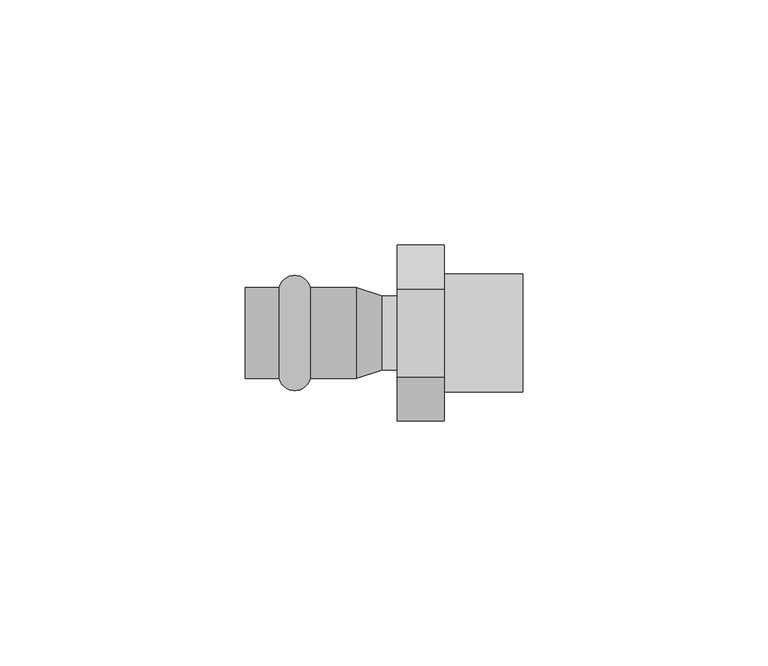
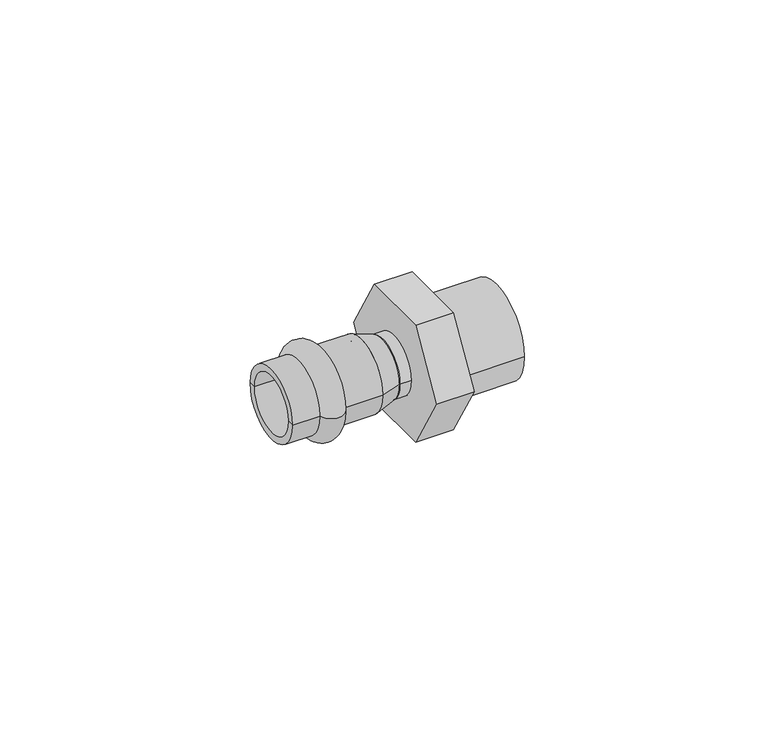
"""IFC4 building model written with IfcOpenShell, lengths in millimetres: pipe fitting geometry, VALTEC_VTi.901.I_Соединитель прямой с переходом на наружную резьбу_Нержавеющая сталь : VTi.901.I."""

from ifc_helpers import new_model, si_unit, point, frame, origin, origin_2d, place, context, project, spatial, polyline, circle_curve, ellipse_curve, trimmed, segment, composite_curve, outline, extrude, source, transform, mapped, element, save
from ifc_brep_helpers import plane_surface, cylinder_surface, revolved_surface, advanced_brep


def pipe_fitting_7e90666c(model_context):
    return source(origin(), model_context, "Body", "SolidModel", [
        advanced_brep(
        [(-28.8622777, -9.25, 0.0), (-28.8622777, 9.25, 0.0), (-22.5377223, 9.25, 0.0), (-22.5377223, -9.25, 0.0), (-35.75, -9.25, 0.0), (-35.75, 9.25, 0.0), (-35.75, -7.5, 0.0), (-35.75, 7.5, 0.0), (-13.15, -7.5, 0.0), (-13.15, 7.5, 0.0), (-13.15, -9.25, 0.0), (-13.15, 9.25, 0.0)],
        [
            (0, 1, circle_curve(frame((-28.8622777, 0.0, 0.0), z_axis=(1.0, 0.0, 0.0), x_axis=(0.0, 1.0, 0.0)), 9.25)),
            (1, 2, circle_curve(frame((-25.7, 8.5, 0.0), z_axis=(0.0, 0.0, -1.0), x_axis=(1.0, 0.0, 0.0)), 3.25)),
            (2, 3, circle_curve(frame((-22.5377223, 0.0, 0.0), z_axis=(-1.0, 0.0, 0.0), x_axis=(0.0, 1.0, 0.0)), 9.25)),
            (3, 0, circle_curve(frame((-25.7, -8.5, 0.0), z_axis=(0.0, 0.0, -1.0), x_axis=(1.0, 0.0, 0.0)), 3.25)),
            (1, 0, circle_curve(frame((-28.8622777, 0.0, 0.0), z_axis=(1.0, 0.0, 0.0), x_axis=(0.0, 1.0, 0.0)), 9.25)),
            (3, 2, circle_curve(frame((-22.5377223, 0.0, 0.0), z_axis=(-1.0, 0.0, 0.0), x_axis=(0.0, 1.0, 0.0)), 9.25)),
            (4, 5, circle_curve(frame((-35.75, 0.0, 0.0), z_axis=(1.0, 0.0, 0.0), x_axis=(0.0, 1.0, 0.0)), 9.25)),
            (5, 1),
            (0, 4),
            (5, 4, circle_curve(frame((-35.75, 0.0, 0.0), z_axis=(1.0, 0.0, 0.0), x_axis=(0.0, 1.0, 0.0)), 9.25)),
            (6, 7, circle_curve(frame((-35.75, 0.0, 0.0), z_axis=(1.0, 0.0, 0.0), x_axis=(0.0, 1.0, 0.0)), 7.5)),
            (7, 5),
            (4, 6),
            (7, 6, circle_curve(frame((-35.75, 0.0, 0.0), z_axis=(1.0, 0.0, 0.0), x_axis=(0.0, 1.0, 0.0)), 7.5)),
            (8, 9, circle_curve(frame((-13.15, 0.0, 0.0), z_axis=(1.0, 0.0, 0.0), x_axis=(0.0, 1.0, 0.0)), 7.5)),
            (9, 7),
            (6, 8),
            (9, 8, circle_curve(frame((-13.15, 0.0, 0.0), z_axis=(1.0, 0.0, 0.0), x_axis=(0.0, 1.0, 0.0)), 7.5)),
            (10, 11, circle_curve(frame((-13.15, 0.0, 0.0), z_axis=(1.0, 0.0, 0.0), x_axis=(0.0, 1.0, 0.0)), 9.25)),
            (11, 9),
            (8, 10),
            (11, 10, circle_curve(frame((-13.15, 0.0, 0.0), z_axis=(1.0, 0.0, 0.0), x_axis=(0.0, 1.0, 0.0)), 9.25)),
            (2, 11),
            (10, 3),
        ],
        [
            revolved_surface(trimmed(ellipse_curve(frame((-25.7, 8.5, 0.0), z_axis=(0.0, 0.0, 1.0), x_axis=(1.0, 0.0, 0.0)), 3.25, 3.25), [point((-22.5377223, 9.25, 0.0))], [point((-28.8622777, 9.25, 0.0))], True, "CARTESIAN"), (-39.2864426, 0.0, 0.0), (-1.0, 0.0, 0.0)),
            cylinder_surface(frame((-39.2864426, 0.0, 0.0), z_axis=(-1.0, 0.0, 0.0), x_axis=(0.0, 1.0, 0.0)), 9.25),
            plane_surface(frame((-35.75, 0.0, 0.0), z_axis=(-1.0, 0.0, 0.0), x_axis=(0.0, 1.0, 0.0))),
            revolved_surface(polyline([(-35.75, 7.5, 0.0), (-13.149999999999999, 7.5, 0.0)]), (-39.2864426, 0.0, 0.0), (-1.0, 0.0, 0.0)),
            plane_surface(frame((-13.15, 0.0, 0.0), z_axis=(1.0, 0.0, 0.0), x_axis=(0.0, 1.0, 0.0))),
        ],
        [
            (0, [[1, 2, 3, 4]]),
            (0, [[5, -4, 6, -2]]),
            (1, [[7, 8, -1, 9]]),
            (1, [[10, -9, -5, -8]]),
            (2, [[11, 12, -7, 13]]),
            (2, [[14, -13, -10, -12]]),
            (3, [[15, 16, -11, 17]]),
            (3, [[18, -17, -14, -16]]),
            (4, [[19, 20, -15, 21]]),
            (4, [[22, -21, -18, -20]]),
            (1, [[-3, 23, -19, 24]]),
            (1, [[-6, -24, -22, -23]]),
        ],
    ),
        extrude(outline(polyline([(-17.8978583, 0.0), (-8.9489292, 15.5), (8.9489292, 15.5), (17.8978583, 0.0), (8.9489292, -15.5), (-8.9489292, -15.5), (-17.8978583, 0.0)])), frame((-4.75, 0.0, 0.0), z_axis=(1.0, 0.0, 0.0), x_axis=(0.0, 1.0, 0.0)), (0.0, 0.0, 1.0), 9.5),
        extrude(outline(composite_curve([segment(trimmed(circle_curve(origin_2d(), 7.5), [point((-7.5, 0.0))], [point((7.5, 0.0))], False, "CARTESIAN"), True, "CONTINUOUS"), segment(trimmed(circle_curve(origin_2d(), 7.5), [point((7.5, 0.0))], [point((-7.5, 0.0))], False, "CARTESIAN"), True, "CONTINUOUS")], self_intersect=False)), frame((-7.8183127, 0.0, 0.0), z_axis=(1.0, 0.0, 0.0), x_axis=(0.0, 1.0, 0.0)), (0.0, 0.0, 1.0), 3.0683127),
        advanced_brep(
        [(-13.15, -9.25, 0.0), (-13.15, 9.25, 0.0), (-7.8183127, -7.5, 0.0), (-7.8183127, 7.5, 0.0)],
        [
            (0, 1, circle_curve(frame((-13.15, 0.0, 0.0), z_axis=(-1.0, 0.0, 0.0), x_axis=(0.0, -1.0, 0.0)), 9.25)),
            (1, 0, circle_curve(frame((-13.15, 0.0, 0.0), z_axis=(-1.0, 0.0, 0.0), x_axis=(0.0, 1.0, 0.0)), 9.25)),
            (2, 3, circle_curve(frame((-7.8183127, 0.0, 0.0), z_axis=(1.0, 0.0, 0.0), x_axis=(0.0, 1.0, 0.0)), 7.5)),
            (3, 2, circle_curve(frame((-7.8183127, 0.0, 0.0), z_axis=(1.0, 0.0, 0.0), x_axis=(0.0, -1.0, 0.0)), 7.5)),
            (2, 0),
            (1, 3),
        ],
        [
            plane_surface(frame((-13.15, 0.0, 0.0), z_axis=(-1.0, 0.0, 0.0), x_axis=(0.0, 0.0, -1.0))),
            plane_surface(frame((-7.8183127, 0.0, 0.0), z_axis=(1.0, 0.0, 0.0), x_axis=(0.0, 0.0, -1.0))),
            revolved_surface(polyline([(-7.818312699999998, -7.500000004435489, 0.0), (-13.15, -9.25, 0.0)]), (15.0317758, 0.0, 0.0), (-1.0, 0.0, 0.0)),
            revolved_surface(polyline([(-7.818312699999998, 7.500000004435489, 0.0), (-13.15, 9.25, 0.0)]), (15.0317758, 0.0, 0.0), (-1.0, 0.0, 0.0)),
        ],
        [
            (0, [[1, 2]]),
            (1, [[3, 4]]),
            (2, [[-3, 5, -2, 6]]),
            (3, [[-4, -6, -1, -5]]),
        ],
    ),
        extrude(outline(composite_curve([segment(trimmed(circle_curve(origin_2d(), 12.0), [point((-12.0, 0.0))], [point((12.0, 0.0))], False, "CARTESIAN"), True, "CONTINUOUS"), segment(trimmed(circle_curve(origin_2d(), 12.0), [point((12.0, 0.0))], [point((-12.0, 0.0))], False, "CARTESIAN"), True, "CONTINUOUS")], self_intersect=False), holes=[composite_curve([segment(trimmed(circle_curve(origin_2d(), 10.0), [point((-10.0, 0.0))], [point((10.0, 0.0))], True, "CARTESIAN"), True, "CONTINUOUS"), segment(trimmed(circle_curve(origin_2d(), 10.0), [point((10.0, 0.0))], [point((-10.0, 0.0))], True, "CARTESIAN"), True, "CONTINUOUS")], self_intersect=False)]), frame((4.75, 0.0, 0.0), z_axis=(1.0, 0.0, 0.0), x_axis=(0.0, 1.0, 0.0)), (0.0, 0.0, 1.0), 16.0),
    ])


if __name__ == "__main__":
    model = new_model("IFC4")
    model_context = context("Model", 3, world=origin())
    ifc_project = project(units=[si_unit("LENGTHUNIT", "METRE", prefix="MILLI")], contexts=[model_context])
    site = spatial("IfcSite", under=ifc_project)
    building = spatial("IfcBuilding", under=site)
    placement = place(None, origin())
    pipe_fitting_shape = pipe_fitting_7e90666c(model_context)
    element("IfcPipeFitting", 1, ObjectType="VALTEC_VTi.901.I_Соединитель прямой с переходом на наружную резьбу_Нержавеющая сталь : VTi.901.I", at=placement, inside=building, context=model_context, shape_type="MappedRepresentation", body=[
        mapped(pipe_fitting_shape, transform((0.0, 0.0, 0.0), x_axis=(1.0, 0.0, 0.0), y_axis=(0.0, 1.0, 0.0), z_axis=(0.0, 0.0, 1.0))),
    ])
    save(model, "model.ifc")
